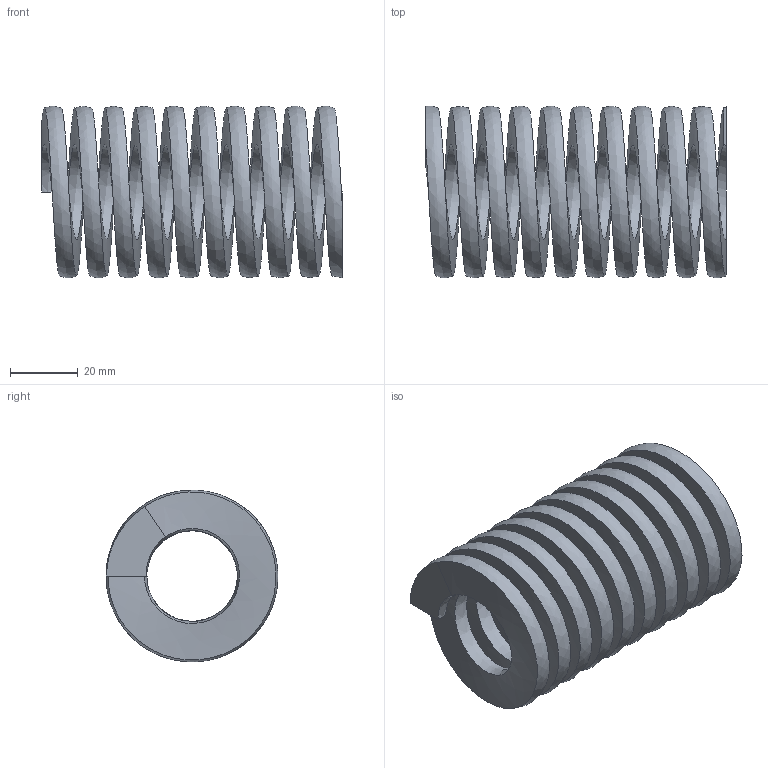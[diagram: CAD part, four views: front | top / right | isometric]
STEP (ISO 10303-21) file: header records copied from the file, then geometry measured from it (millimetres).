
FILE_DESCRIPTION (( 'STEP AP203' ), '1' );
FILE_NAME ('HS200L3.5.step', '2020-08-24T12:28:11', ( 'Microsoft Corporation' ), ( 'MS' ), 'SwSTEP 2.0', 'SolidWorks 2018', '' );
FILE_SCHEMA (( 'CONFIG_CONTROL_DESIGN' ));
Length unit declared in the file: inch
Products named in the file (1): HS200L3.5
Bounding box: 88.9 x 50.78 x 50.79 mm (x, y, z)
Volume: 68304.4 mm3; surface area: 38787.6 mm2
Topology: 1 solids, 1 shells, 8 faces, 18 edges, 12 vertices
Faces by surface type: bspline 4, plane 4
Entity records: 3255 total; most frequent: CARTESIAN_POINT 3023, ORIENTED_EDGE 36, DIRECTION 22, EDGE_CURVE 18, VERTEX_POINT 12, B_SPLINE_CURVE_WITH_KNOTS 10, AXIS2_PLACEMENT_3D 9, FACE_OUTER_BOUND 8
